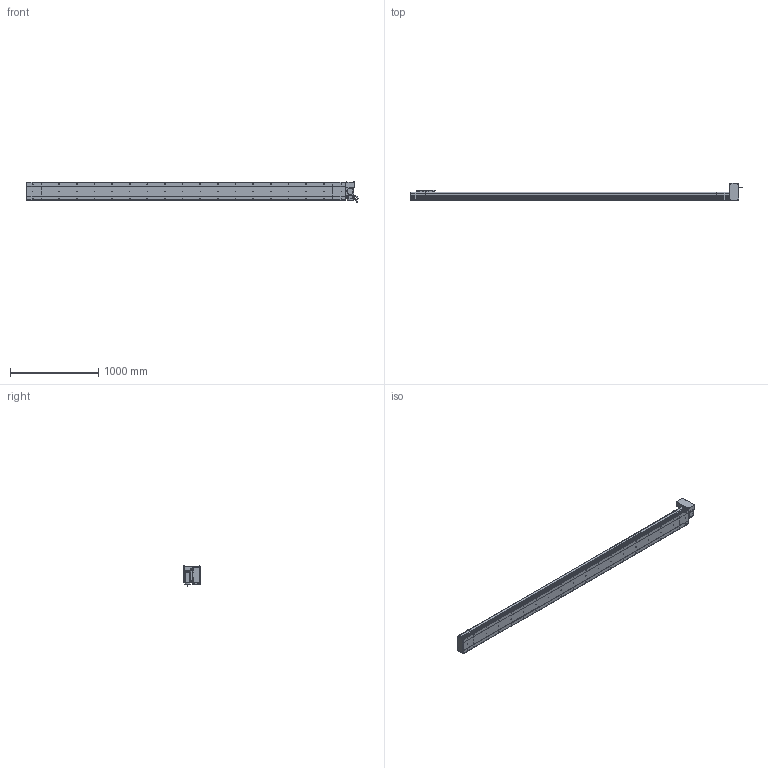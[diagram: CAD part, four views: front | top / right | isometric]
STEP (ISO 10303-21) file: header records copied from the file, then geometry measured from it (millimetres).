
FILE_DESCRIPTION (( 'STEP AP214' ), '1' );
FILE_NAME ('D20 CBH LT S3300.STEP', '2010-06-30T10:51:45', ( 'Conseil Régional Haute-Normandie' ), ( 'Conseil Régional Haute-Normandie' ), 'SwSTEP 2.0', 'SolidWorks 2010', '' );
FILE_SCHEMA (( 'AUTOMOTIVE_DESIGN' ));
Length unit declared in the file: millimetre
Products named in the file (31): Support Chariot D20_Default; Chariot D20_Default; ecrou_Default; Corp D20 S3300_Default; vis M5 L47_Default; Glissiere_Default; corps 90BLDC125A-640; Conecteur2_Default; codeur 90BLDC125-640; Conecteur_Default; Moteur motionking 90BLDC125A-640; Couvercle S3300_Default; Corp S3300_Default; Cache Support Moteur LT_Default; vis M5 L30_Default; avant 90BLDC125A-640; Plaque De Serrage D20_Default; Corp Tail D20+100_Default; Couvercle_Default; Plaque de Bout Tail D20_Default; vis M5 L15_Default; Tail D20+100_Default; D20 CBH LT S3300; Support moteur LT_Default; Rondelle Cache D20 LT_Default; Plaque De Serrage D20 LT_Default; Couvercle LT_Default; Plaque de Bout Head D20 LT_Default; Head LT_Default; Corp Tail D20 LT_Default
Assembly tree (66 placements, depth 4):
  D20 CBH LT S3300
    Corp D20 S3300_Default
      Corp S3300_Default
      Couvercle S3300_Default
    Tail D20+100_Default
      vis M5 L15_Default  x6
      Couvercle_Default
      Plaque De Serrage D20_Default
      Corp Tail D20+100_Default
      Plaque de Bout Tail D20_Default
    Head LT_Default
      Plaque De Serrage D20 LT_Default
      vis M5 L15_Default  x12
      vis M5 L47_Default  x4
      vis M5 L30_Default  x4
      Cache Support Moteur LT_Default
      Support moteur LT_Default
      Corp Tail D20 LT_Default
      Couvercle LT_Default
      ecrou_Default  x4
      Rondelle Cache D20 LT_Default  x3
      Moteur motionking 90BLDC125A-640
        Conecteur2_Default
        codeur 90BLDC125-640
        avant 90BLDC125A-640
        corps 90BLDC125A-640
        Conecteur_Default
      Plaque de Bout Head D20 LT_Default
    Chariot D20_Default
      vis M5 L15_Default  x8
      Support Chariot D20_Default
      Glissiere_Default
      Chariot D20_Default
Bounding box: 3763.45 x 202.5 x 229.7 mm (x, y, z)
Volume: 25059437.6 mm3; surface area: 4817865.2 mm2
Topology: 103 solids, 103 shells, 3849 faces, 9620 edges, 6256 vertices
Faces by surface type: plane 2122, bspline 806, cylinder 758, torus 91, cone 68, sphere 4
Entity records: 162718 total; most frequent: CARTESIAN_POINT 83569, ORIENTED_EDGE 15708, DIRECTION 12024, EDGE_CURVE 7854, VERTEX_POINT 5200, LINE 5006, VECTOR 5006, AXIS2_PLACEMENT_3D 3509
